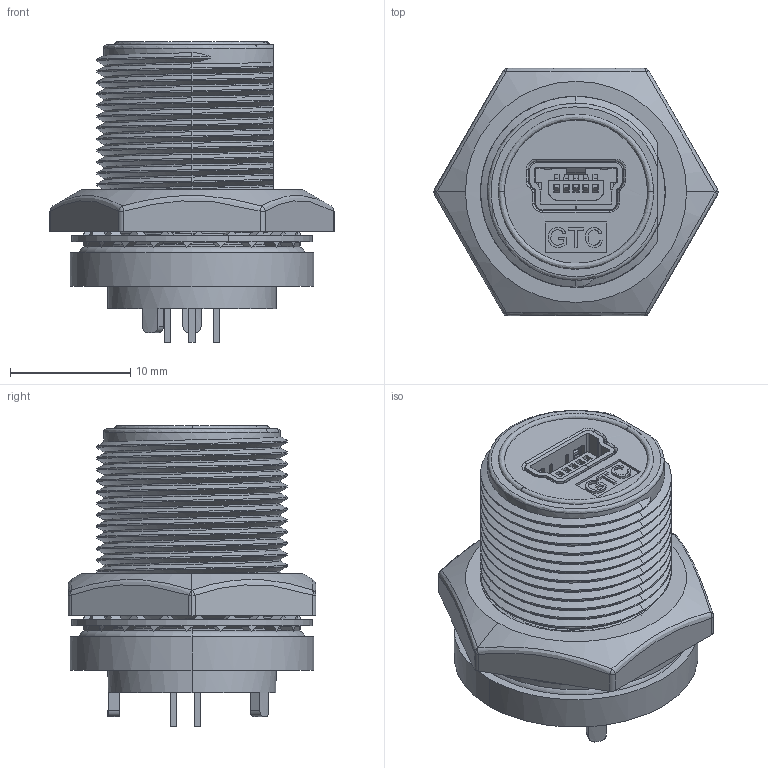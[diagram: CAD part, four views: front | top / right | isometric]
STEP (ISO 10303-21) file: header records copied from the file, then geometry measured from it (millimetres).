
FILE_DESCRIPTION (( 'STEP AP203' ), '1' );
FILE_NAME ('RR-214300-10.STEP', '2025-02-26T08:16:59', ( '' ), ( '' ), 'SwSTEP 2.0', 'SolidWorks 2019', '' );
FILE_SCHEMA (( 'CONFIG_CONTROL_DESIGN' ));
Length unit declared in the file: millimetre
Products named in the file (1): RR-214300-10
Bounding box: 23.63 x 20.6 x 25 mm (x, y, z)
Volume: 4530.2 mm3; surface area: 5615.6 mm2
Topology: 10 solids, 12 shells, 1160 faces, 3277 edges, 2104 vertices
Faces by surface type: plane 569, cylinder 360, bspline 192, torus 17, cone 14, sphere 8
Entity records: 55698 total; most frequent: CARTESIAN_POINT 27572, ORIENTED_EDGE 6546, DIRECTION 4961, EDGE_CURVE 3273, VERTEX_POINT 2104, VECTOR 1857, LINE 1857, AXIS2_PLACEMENT_3D 1552
